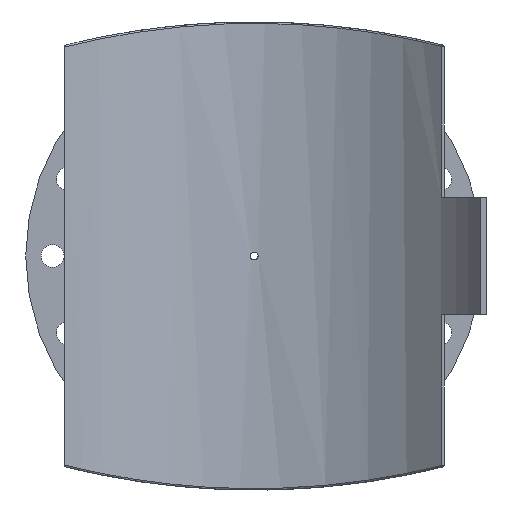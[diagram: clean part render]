
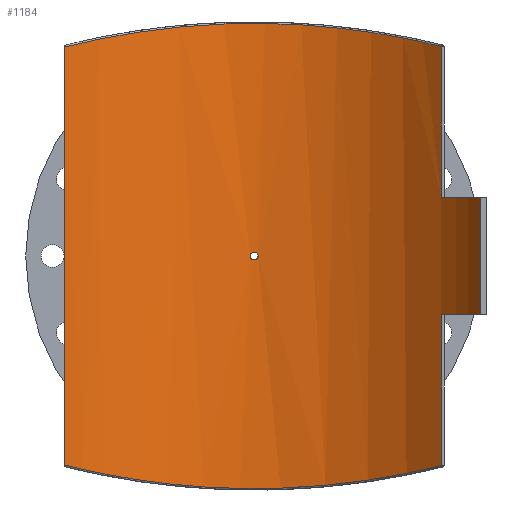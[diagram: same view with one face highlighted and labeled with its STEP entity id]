
A CAD part, front view. The second image highlights one B-rep face of the part: STEP entity #1184.
In plain terms, the highlighted cylindrical face has radius 355 mm (diameter 710 mm), a partial arc.
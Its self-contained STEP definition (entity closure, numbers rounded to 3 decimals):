
#55=FACE_BOUND('',#383,.T.);
#117=B_SPLINE_CURVE_WITH_KNOTS('',3,(#2409,#2410,#2411,#2412,#2413,#2414,
#2415,#2416,#2417,#2418),.UNSPECIFIED.,.F.,.F.,(4,1,1,1,1,1,1,4),(-63.314,
-55.453,-47.591,-39.73,-31.868,
-24.007,-16.145,-8.284),.UNSPECIFIED.);
#118=B_SPLINE_CURVE_WITH_KNOTS('',3,(#2427,#2428,#2429,#2430,#2431,#2432,
#2433,#2434,#2435,#2436),.UNSPECIFIED.,.F.,.F.,(4,1,1,1,1,1,1,4),(-59.866,
-52.005,-44.143,-36.282,-28.42,
-20.559,-12.697,-4.836),.UNSPECIFIED.);
#119=B_SPLINE_CURVE_WITH_KNOTS('',3,(#2439,#2440,#2441,#2442,#2443,#2444,
#2445,#2446,#2447,#2448),.UNSPECIFIED.,.F.,.F.,(4,2,2,2,4),(0.,0.196,
0.392,0.588,0.784),.UNSPECIFIED.);
#120=B_SPLINE_CURVE_WITH_KNOTS('',3,(#2449,#2450,#2451,#2452,#2453,#2454,
#2455,#2456,#2457,#2458,#2459,#2460,#2461,#2462,#2463,#2464,#2465,#2466,
#2467,#2468,#2469,#2470,#2471,#2472,#2473,#2474),.UNSPECIFIED.,.F.,.F.,
(4,2,2,2,2,2,2,2,2,2,2,2,4),(0.784,0.979,1.175,
1.371,1.567,1.763,1.959,2.155,
2.351,2.546,2.742,2.938,3.134),
 .UNSPECIFIED.);
#141=LINE('',#1776,#197);
#152=LINE('',#2092,#208);
#159=LINE('',#2423,#215);
#160=LINE('',#2426,#216);
#197=VECTOR('',#1418,10.);
#208=VECTOR('',#1457,10.);
#215=VECTOR('',#1494,10.);
#216=VECTOR('',#1497,10.);
#262=CYLINDRICAL_SURFACE('',#1286,355.);
#311=FACE_OUTER_BOUND('',#382,.T.);
#382=EDGE_LOOP('',(#915,#916,#917,#918,#919,#920,#921,#922));
#383=EDGE_LOOP('',(#923,#924));
#490=CIRCLE('',#1287,355.);
#491=CIRCLE('',#1288,355.);
#561=VERTEX_POINT('',#1767);
#564=VERTEX_POINT('',#1774);
#584=VERTEX_POINT('',#2085);
#587=VERTEX_POINT('',#2090);
#600=VERTEX_POINT('',#2392);
#601=VERTEX_POINT('',#2420);
#602=VERTEX_POINT('',#2422);
#603=VERTEX_POINT('',#2425);
#604=VERTEX_POINT('',#2437);
#605=VERTEX_POINT('',#2438);
#674=EDGE_CURVE('',#564,#561,#141,.T.);
#704=EDGE_CURVE('',#587,#584,#152,.T.);
#727=EDGE_CURVE('',#600,#587,#117,.T.);
#728=EDGE_CURVE('',#601,#564,#490,.T.);
#729=EDGE_CURVE('',#601,#602,#159,.T.);
#730=EDGE_CURVE('',#584,#602,#491,.T.);
#731=EDGE_CURVE('',#603,#600,#160,.T.);
#732=EDGE_CURVE('',#561,#603,#118,.T.);
#733=EDGE_CURVE('',#604,#605,#119,.T.);
#734=EDGE_CURVE('',#605,#604,#120,.T.);
#915=ORIENTED_EDGE('',*,*,#728,.F.);
#916=ORIENTED_EDGE('',*,*,#729,.T.);
#917=ORIENTED_EDGE('',*,*,#730,.F.);
#918=ORIENTED_EDGE('',*,*,#704,.F.);
#919=ORIENTED_EDGE('',*,*,#727,.F.);
#920=ORIENTED_EDGE('',*,*,#731,.F.);
#921=ORIENTED_EDGE('',*,*,#732,.F.);
#922=ORIENTED_EDGE('',*,*,#674,.F.);
#923=ORIENTED_EDGE('',*,*,#733,.T.);
#924=ORIENTED_EDGE('',*,*,#734,.T.);
#1184=ADVANCED_FACE('',(#311,#55),#262,.F.);
#1286=AXIS2_PLACEMENT_3D('',#2419,#1490,#1491);
#1287=AXIS2_PLACEMENT_3D('',#2421,#1492,#1493);
#1288=AXIS2_PLACEMENT_3D('',#2424,#1495,#1496);
#1418=DIRECTION('',(0.,0.,-1.));
#1457=DIRECTION('',(0.,0.,-1.));
#1490=DIRECTION('center_axis',(0.,0.,1.));
#1491=DIRECTION('ref_axis',(-1.,0.,0.));
#1492=DIRECTION('center_axis',(0.,0.,1.));
#1493=DIRECTION('ref_axis',(-0.83,-0.558,0.));
#1494=DIRECTION('',(0.,0.,1.));
#1495=DIRECTION('center_axis',(0.,0.,-1.));
#1496=DIRECTION('ref_axis',(-0.83,-0.558,0.));
#1497=DIRECTION('',(0.,0.,1.));
#1767=CARTESIAN_POINT('',(244.125,257.737,-272.938));
#1774=CARTESIAN_POINT('',(244.125,257.737,-76.25));
#1776=CARTESIAN_POINT('',(244.125,257.737,0.));
#2085=CARTESIAN_POINT('',(244.125,257.737,76.25));
#2090=CARTESIAN_POINT('',(244.125,257.737,272.938));
#2092=CARTESIAN_POINT('',(244.125,257.737,0.));
#2392=CARTESIAN_POINT('',(-247.5,254.497,272.087));
#2409=CARTESIAN_POINT('Ctrl Pts',(-247.5,254.497,272.087));
#2410=CARTESIAN_POINT('Ctrl Pts',(-229.116,272.375,276.752));
#2411=CARTESIAN_POINT('Ctrl Pts',(-188.452,304.156,285.956));
#2412=CARTESIAN_POINT('Ctrl Pts',(-118.184,337.77,296.958));
#2413=CARTESIAN_POINT('Ctrl Pts',(-41.739,355.442,303.152));
#2414=CARTESIAN_POINT('Ctrl Pts',(36.973,355.969,303.34));
#2415=CARTESIAN_POINT('Ctrl Pts',(113.678,339.317,297.49));
#2416=CARTESIAN_POINT('Ctrl Pts',(184.413,306.624,286.728));
#2417=CARTESIAN_POINT('Ctrl Pts',(225.507,275.371,277.593));
#2418=CARTESIAN_POINT('Ctrl Pts',(244.125,257.737,272.938));
#2419=CARTESIAN_POINT('Origin',(0.,0.,0.));
#2420=CARTESIAN_POINT('',(294.615,198.058,-76.25));
#2421=CARTESIAN_POINT('Origin',(0.,0.,
-76.25));
#2422=CARTESIAN_POINT('',(294.615,198.058,76.25));
#2423=CARTESIAN_POINT('',(294.615,198.058,0.));
#2424=CARTESIAN_POINT('Origin',(0.,0.,
76.25));
#2425=CARTESIAN_POINT('',(-247.5,254.497,-272.087));
#2426=CARTESIAN_POINT('',(-247.5,254.497,0.));
#2427=CARTESIAN_POINT('Ctrl Pts',(244.125,257.737,-272.938));
#2428=CARTESIAN_POINT('Ctrl Pts',(225.507,275.371,-277.593));
#2429=CARTESIAN_POINT('Ctrl Pts',(184.413,306.624,-286.728));
#2430=CARTESIAN_POINT('Ctrl Pts',(113.678,339.317,-297.49));
#2431=CARTESIAN_POINT('Ctrl Pts',(36.973,355.969,-303.34));
#2432=CARTESIAN_POINT('Ctrl Pts',(-41.739,355.442,-303.152));
#2433=CARTESIAN_POINT('Ctrl Pts',(-118.184,337.77,-296.958));
#2434=CARTESIAN_POINT('Ctrl Pts',(-188.452,304.156,-285.956));
#2435=CARTESIAN_POINT('Ctrl Pts',(-229.116,272.375,-276.752));
#2436=CARTESIAN_POINT('Ctrl Pts',(-247.5,254.497,-272.087));
#2437=CARTESIAN_POINT('',(5.2,354.962,0.));
#2438=CARTESIAN_POINT('',(0.,355.,-5.2));
#2439=CARTESIAN_POINT('Ctrl Pts',(5.2,354.962,0.));
#2440=CARTESIAN_POINT('Ctrl Pts',(5.2,354.962,-0.653));
#2441=CARTESIAN_POINT('Ctrl Pts',(5.07,354.964,-1.349));
#2442=CARTESIAN_POINT('Ctrl Pts',(4.539,354.971,-2.631));
#2443=CARTESIAN_POINT('Ctrl Pts',(4.139,354.976,-3.215));
#2444=CARTESIAN_POINT('Ctrl Pts',(3.215,354.986,-4.139));
#2445=CARTESIAN_POINT('Ctrl Pts',(2.631,354.991,-4.539));
#2446=CARTESIAN_POINT('Ctrl Pts',(1.349,354.998,-5.07));
#2447=CARTESIAN_POINT('Ctrl Pts',(0.653,355.,-5.2));
#2448=CARTESIAN_POINT('Ctrl Pts',(0.,355.,-5.2));
#2449=CARTESIAN_POINT('Ctrl Pts',(0.,355.,-5.2));
#2450=CARTESIAN_POINT('Ctrl Pts',(-0.653,355.,-5.2));
#2451=CARTESIAN_POINT('Ctrl Pts',(-1.349,354.998,-5.07));
#2452=CARTESIAN_POINT('Ctrl Pts',(-2.631,354.991,-4.539));
#2453=CARTESIAN_POINT('Ctrl Pts',(-3.215,354.986,-4.139));
#2454=CARTESIAN_POINT('Ctrl Pts',(-4.139,354.976,-3.215));
#2455=CARTESIAN_POINT('Ctrl Pts',(-4.539,354.971,-2.631));
#2456=CARTESIAN_POINT('Ctrl Pts',(-5.07,354.964,-1.349));
#2457=CARTESIAN_POINT('Ctrl Pts',(-5.2,354.962,-0.653));
#2458=CARTESIAN_POINT('Ctrl Pts',(-5.2,354.962,0.653));
#2459=CARTESIAN_POINT('Ctrl Pts',(-5.07,354.964,1.349));
#2460=CARTESIAN_POINT('Ctrl Pts',(-4.539,354.971,2.631));
#2461=CARTESIAN_POINT('Ctrl Pts',(-4.139,354.976,3.215));
#2462=CARTESIAN_POINT('Ctrl Pts',(-3.215,354.986,4.139));
#2463=CARTESIAN_POINT('Ctrl Pts',(-2.631,354.991,4.539));
#2464=CARTESIAN_POINT('Ctrl Pts',(-1.349,354.998,5.07));
#2465=CARTESIAN_POINT('Ctrl Pts',(-0.653,355.,5.2));
#2466=CARTESIAN_POINT('Ctrl Pts',(0.653,355.,5.2));
#2467=CARTESIAN_POINT('Ctrl Pts',(1.349,354.998,5.07));
#2468=CARTESIAN_POINT('Ctrl Pts',(2.631,354.991,4.539));
#2469=CARTESIAN_POINT('Ctrl Pts',(3.215,354.986,4.139));
#2470=CARTESIAN_POINT('Ctrl Pts',(4.139,354.976,3.215));
#2471=CARTESIAN_POINT('Ctrl Pts',(4.539,354.971,2.631));
#2472=CARTESIAN_POINT('Ctrl Pts',(5.07,354.964,1.349));
#2473=CARTESIAN_POINT('Ctrl Pts',(5.2,354.962,0.653));
#2474=CARTESIAN_POINT('Ctrl Pts',(5.2,354.962,0.));
